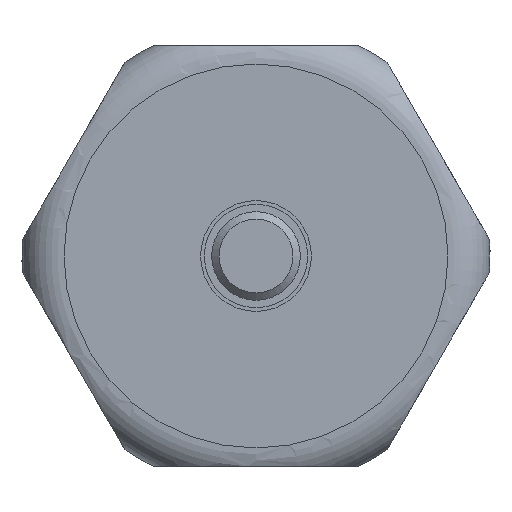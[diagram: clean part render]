
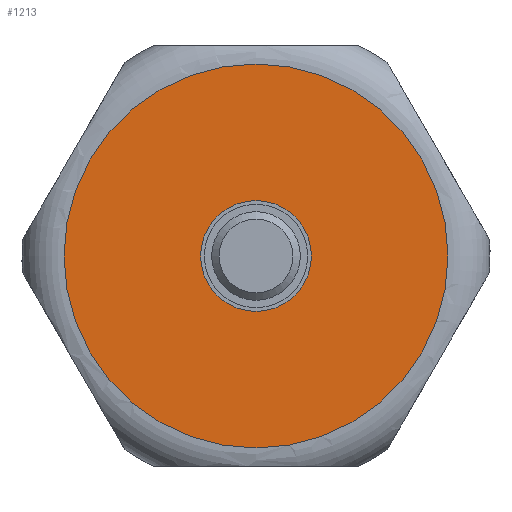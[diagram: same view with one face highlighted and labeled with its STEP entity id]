
A CAD part, left-side view. The second image highlights one B-rep face of the part: STEP entity #1213.
In plain terms, the highlighted planar face has unit normal (-1, 0, 0).
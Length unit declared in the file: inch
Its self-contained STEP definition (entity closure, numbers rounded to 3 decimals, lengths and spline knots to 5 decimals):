
#40=FACE_BOUND('',#274,.T.);
#202=FACE_OUTER_BOUND('',#273,.T.);
#273=EDGE_LOOP('',(#911,#912));
#274=EDGE_LOOP('',(#913,#914));
#346=CIRCLE('',#1313,0.14764);
#347=CIRCLE('',#1314,0.14764);
#373=CIRCLE('',#1358,0.51181);
#374=CIRCLE('',#1359,0.51181);
#464=VERTEX_POINT('',#1945);
#465=VERTEX_POINT('',#1946);
#504=VERTEX_POINT('',#2206);
#505=VERTEX_POINT('',#2207);
#600=EDGE_CURVE('',#464,#465,#346,.T.);
#601=EDGE_CURVE('',#465,#464,#347,.T.);
#657=EDGE_CURVE('',#504,#505,#373,.T.);
#658=EDGE_CURVE('',#505,#504,#374,.T.);
#911=ORIENTED_EDGE('',*,*,#657,.F.);
#912=ORIENTED_EDGE('',*,*,#658,.F.);
#913=ORIENTED_EDGE('',*,*,#600,.T.);
#914=ORIENTED_EDGE('',*,*,#601,.T.);
#1098=PLANE('',#1357);
#1213=ADVANCED_FACE('',(#202,#40),#1098,.T.);
#1313=AXIS2_PLACEMENT_3D('',#1947,#1551,#1552);
#1314=AXIS2_PLACEMENT_3D('',#1948,#1553,#1554);
#1357=AXIS2_PLACEMENT_3D('',#2205,#1655,#1656);
#1358=AXIS2_PLACEMENT_3D('',#2208,#1657,#1658);
#1359=AXIS2_PLACEMENT_3D('',#2209,#1659,#1660);
#1551=DIRECTION('center_axis',(1.,0.,0.));
#1552=DIRECTION('ref_axis',(0.,-0.866,0.5));
#1553=DIRECTION('center_axis',(1.,0.,0.));
#1554=DIRECTION('ref_axis',(0.,-0.866,0.5));
#1655=DIRECTION('center_axis',(-1.,0.,0.));
#1656=DIRECTION('ref_axis',(0.,-0.866,0.5));
#1657=DIRECTION('center_axis',(1.,0.,0.));
#1658=DIRECTION('ref_axis',(0.,0.866,-0.5));
#1659=DIRECTION('center_axis',(1.,0.,0.));
#1660=DIRECTION('ref_axis',(0.,0.866,-0.5));
#1945=CARTESIAN_POINT('',(-2.66747,-0.02656,-0.27052));
#1946=CARTESIAN_POINT('',(-2.66747,0.22916,-0.41816));
#1947=CARTESIAN_POINT('Origin',(-2.66747,0.1013,-0.34434));
#1948=CARTESIAN_POINT('Origin',(-2.66747,0.1013,-0.34434));
#2205=CARTESIAN_POINT('Origin',(-2.66747,0.54454,-0.60025));
#2206=CARTESIAN_POINT('',(-2.66747,0.54454,-0.60025));
#2207=CARTESIAN_POINT('',(-2.66747,-0.34194,-0.08844));
#2208=CARTESIAN_POINT('Origin',(-2.66747,0.1013,-0.34434));
#2209=CARTESIAN_POINT('Origin',(-2.66747,0.1013,-0.34434));
